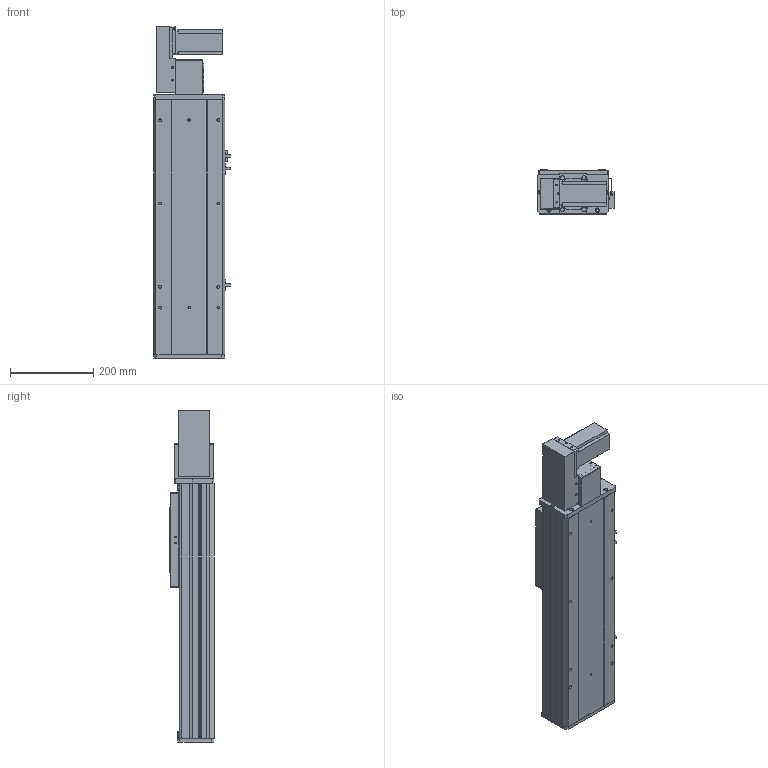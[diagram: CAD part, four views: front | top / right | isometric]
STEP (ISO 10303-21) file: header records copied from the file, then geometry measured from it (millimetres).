
FILE_DESCRIPTION (( 'STEP AP203' ), '1' );
FILE_NAME ('Y170CB-D105-S300-BR-P400W.STEP', '2020-02-20T01:03:36', ( '微软用户' ), ( '微软中国' ), 'SwSTEP 2.0', 'SolidWorks 2017', '' );
FILE_SCHEMA (( 'CONFIG_CONTROL_DESIGN' ));
Length unit declared in the file: millimetre
Products named in the file (18): Y70俋欶BR----; Y100-135俋离換覜ん--; 70CB-掛极-; Y170CB-陔俋离換覜結え---; --70CB --喘謫眊楊擘啣-; 70B喘謫眊----; 70CB-耜裔啣-; Y1埴倛裔; 70C--詩湍揤踡え-; B-源倛裔啣; Y170CB-D105-S300-BR-P400W; 70CB--耜裔; 17B-耜蚾蟀諉啣----; 70C-雄赽釱-奻-; 0B-萇儂楊擘啣; 0C--雄赽釱俋欶-170; san松下电机400不带刹车----; 70CB-詩湍--
Assembly tree (21 placements, depth 2):
  Y170CB-D105-S300-BR-P400W
    B-源倛裔啣
    17B-耜蚾蟀諉啣----
    0B-萇儂楊擘啣
    san松下电机400不带刹车----
    Y70俋欶BR----
    70CB-掛极-
    --70CB --喘謫眊楊擘啣-
    70CB-耜裔啣-  x2
    70C--詩湍揤踡え-  x2
    70CB--耜裔
    70C-雄赽釱-奻-
    0C--雄赽釱俋欶-170
    70CB-詩湍--
    Y100-135俋离換覜ん--  x3
    Y170CB-陔俋离換覜結え---
    70B喘謫眊----
    Y1埴倛裔
Bounding box: 183.5 x 107 x 797 mm (x, y, z)
Volume: 3780849 mm3; surface area: 1337871.2 mm2
Topology: 21 solids, 21 shells, 983 faces, 2621 edges, 1738 vertices
Faces by surface type: cylinder 495, plane 464, cone 24
Entity records: 31152 total; most frequent: CARTESIAN_POINT 5676, DIRECTION 5062, ORIENTED_EDGE 4724, EDGE_CURVE 2362, AXIS2_PLACEMENT_3D 1844, VERTEX_POINT 1568, LINE 1374, VECTOR 1374
